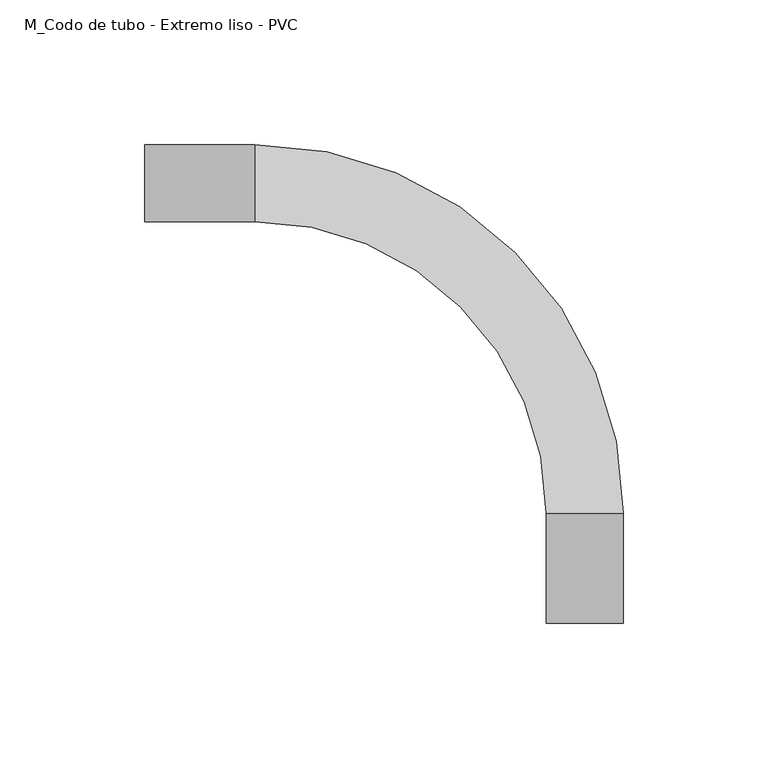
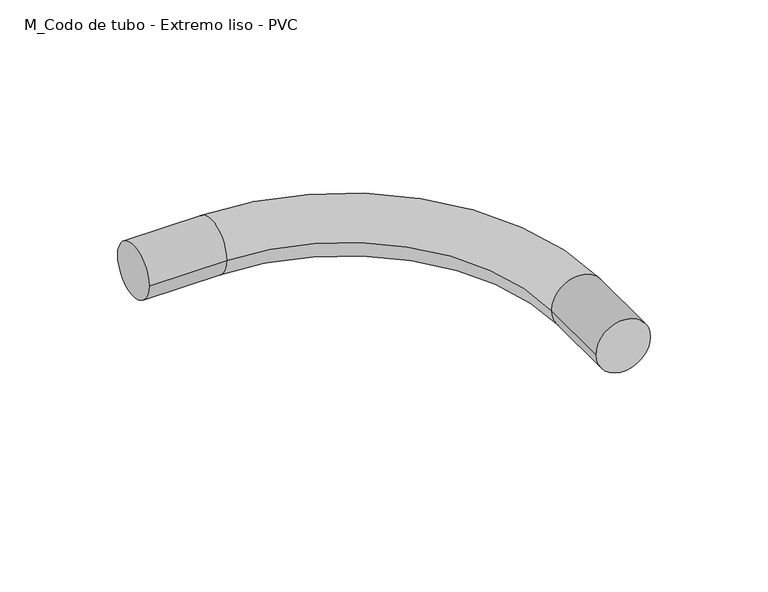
"""IFC4 building model written with IfcOpenShell, lengths in millimetres: cable carrier fitting geometry, M_Codo de tubo - Extremo liso - PVC : CODO ILUMINACION."""

import ifcopenshell
import ifcopenshell.guid

model = None  # the IFC model being written
_history = None  # IfcOwnerHistory: only IFC2X3 demands one
_inside = {}  # id of a spatial element -> (the spatial element, [elements in it])
_under = {}  # id of a project, library or spatial element -> (it, [spatial elements below it])
_declared = {}  # id of a project -> (the project, [libraries it declares])
_typed = {}  # id of a type object -> (the type object, [elements of that type])
_made_of = {}  # id of a material, layer set ... -> (it, [elements and type objects made of it])


def new_model(schema):
    """Start an empty IFC model of exactly this schema.

    Asked for "IFC4X3", IfcOpenShell would pick the latest addendum, in which some entities
    have other attributes; the version numbers below select the first issue.
    IFC2X3 requires an IfcOwnerHistory on every rooted entity: one is made here for all.
    """
    global model, _history
    if schema == "IFC4X3":
        model = ifcopenshell.file(schema_version=(4, 3, 0, 0))
    else:
        model = ifcopenshell.file(schema=schema)
    _inside.clear()
    _under.clear()
    _declared.clear()
    _typed.clear()
    _made_of.clear()
    _history = None
    if model.schema == "IFC2X3":
        org = make("IfcOrganization", Name="unknown")
        user = make(
            "IfcPersonAndOrganization",
            ThePerson=make("IfcPerson", FamilyName="unknown"),
            TheOrganization=org,
        )
        app = make(
            "IfcApplication",
            ApplicationDeveloper=org,
            Version="unknown",
            ApplicationFullName="unknown",
            ApplicationIdentifier="unknown",
        )
        _history = make(
            "IfcOwnerHistory",
            OwningUser=user,
            OwningApplication=app,
            ChangeAction="ADDED",
            CreationDate=0,
        )
    return model


def make(cls, **values):
    """One entity of the class cls with the attributes given. An attribute that is None is left unset."""
    return model.create_entity(
        cls, **{name: value for name, value in values.items() if value is not None}
    )


def rooted(cls, **values):
    """An entity with a GlobalId (a new one), such as an element, a storey or a relation."""
    return make(cls, GlobalId=ifcopenshell.guid.new(), OwnerHistory=_history, **values)


def si_unit(unit_type, name, prefix=None):
    """IfcSIUnit, for example si_unit("LENGTHUNIT", "METRE", prefix="MILLI")."""
    return make("IfcSIUnit", UnitType=unit_type, Prefix=prefix, Name=name)


def assignment(units):
    """IfcUnitAssignment: the units of a project."""
    return None if units is None else make("IfcUnitAssignment", Units=units)


def point(xyz):
    """IfcCartesianPoint."""
    return None if xyz is None else make("IfcCartesianPoint", Coordinates=xyz)


def direction(xyz):
    """IfcDirection."""
    return None if xyz is None else make("IfcDirection", DirectionRatios=xyz)


def frame(location, z_axis=None, x_axis=None):
    """IfcAxis2Placement3D, a coordinate frame: its origin and axes. An axis left out is left unset."""
    return make(
        "IfcAxis2Placement3D",
        Location=point(location),
        Axis=direction(z_axis),
        RefDirection=direction(x_axis),
    )


def origin():
    """The frame at (0, 0, 0) with its axes left unset."""
    return frame((0.0, 0.0, 0.0))


def place(relative_to, where):
    """IfcLocalPlacement: puts the frame where relative to a parent placement (None: the world)."""
    return make(
        "IfcLocalPlacement", PlacementRelTo=relative_to, RelativePlacement=where
    )


def context(
    kind, dimensions, precision=None, world=None, true_north=None, identifier=None
):
    """IfcGeometricRepresentationContext, for example the 3D "Model" context."""
    return make(
        "IfcGeometricRepresentationContext",
        ContextIdentifier=identifier,
        ContextType=kind,
        CoordinateSpaceDimension=dimensions,
        Precision=precision,
        WorldCoordinateSystem=world,
        TrueNorth=true_north,
    )


def project(units=None, contexts=None):
    """IfcProject with its units and contexts."""
    return rooted(
        "IfcProject",
        Name="project",
        RepresentationContexts=contexts,
        UnitsInContext=assignment(units),
    )


def spatial(cls, under=None, at=None, **own):
    """A site, building, storey or space (cls), placed at a placement, below another one or the project."""
    s = rooted(cls, ObjectPlacement=at, **own)
    if under is not None:
        _under.setdefault(under.id(), (under, []))[1].append(s)
    return s


def circle_curve(where, radius):
    """IfcCircle in the frame where."""
    return make("IfcCircle", Position=where, Radius=radius)


def ellipse_curve(where, semi_axis1, semi_axis2):
    """IfcEllipse in the frame where."""
    return make(
        "IfcEllipse", Position=where, SemiAxis1=semi_axis1, SemiAxis2=semi_axis2
    )


def trimmed(basis, trim1, trim2, sense, master):
    """IfcTrimmedCurve: the piece of a basis curve between two trims."""
    return make(
        "IfcTrimmedCurve",
        BasisCurve=basis,
        Trim1=trim1,
        Trim2=trim2,
        SenseAgreement=sense,
        MasterRepresentation=master,
    )


def shape(context_of_items, identifier, shape_type, items):
    """IfcShapeRepresentation: the items that make up one representation, for example the "Body"."""
    return make(
        "IfcShapeRepresentation",
        ContextOfItems=context_of_items,
        RepresentationIdentifier=identifier,
        RepresentationType=shape_type,
        Items=items,
    )


def source(mapping_origin, context_of_items, identifier, shape_type, items):
    """IfcRepresentationMap: a shape defined once, which mapped items show again and again."""
    return make(
        "IfcRepresentationMap",
        MappingOrigin=mapping_origin,
        MappedRepresentation=shape(context_of_items, identifier, shape_type, items),
    )


def transform(
    local_origin,
    x_axis=None,
    y_axis=None,
    z_axis=None,
    scale=None,
    scale2=None,
    scale3=None,
    uniform=True,
):
    """IfcCartesianTransformationOperator3D, or its non-uniform kind. x_axis, y_axis, z_axis: its Axis1, 2, 3."""
    if uniform:
        return make(
            "IfcCartesianTransformationOperator3D",
            Axis1=direction(x_axis),
            Axis2=direction(y_axis),
            LocalOrigin=point(local_origin),
            Scale=scale,
            Axis3=direction(z_axis),
        )
    return make(
        "IfcCartesianTransformationOperator3DnonUniform",
        Axis1=direction(x_axis),
        Axis2=direction(y_axis),
        LocalOrigin=point(local_origin),
        Scale=scale,
        Axis3=direction(z_axis),
        Scale2=scale2,
        Scale3=scale3,
    )


def mapped(mapping_source, mapping_target):
    """IfcMappedItem: shows the shape of a source again, moved by a transform."""
    return make(
        "IfcMappedItem", MappingSource=mapping_source, MappingTarget=mapping_target
    )


def made_of(thing, what):
    """Note that an element or type object is made of a material, layer set ...; save() writes the relation."""
    if what is not None:
        _made_of.setdefault(what.id(), (what, []))[1].append(thing)
    return thing


def element(
    cls,
    number,
    at=None,
    inside=None,
    cuts=None,
    type_object=None,
    material=None,
    context=None,
    identifier="Body",
    shape_type=None,
    held_by="IfcProductDefinitionShape",
    body=None,
    shapes=None,
    **own,
):
    """One element of the class cls, such as IfcWall. Its Tag is "e" and its number.

    at: its placement. inside: the storey or other place that contains it. cuts: it is an
    opening in that element (IfcRelVoidsElement). A single representation is given by context,
    identifier, shape_type and body (its items); several are given by shapes. held_by: the class
    of the entity that holds the representations. save() writes the other relations.
    """
    e = rooted(cls, Tag="e%d" % number, ObjectPlacement=at, **own)
    if body is not None:
        shapes = [shape(context, identifier, shape_type, body)]
    if shapes is not None:
        e.Representation = make(held_by, Representations=shapes)
    if inside is not None:
        _inside.setdefault(inside.id(), (inside, []))[1].append(e)
    if cuts is not None:
        rooted(
            "IfcRelVoidsElement", RelatingBuildingElement=cuts, RelatedOpeningElement=e
        )
    if type_object is not None:
        _typed.setdefault(type_object.id(), (type_object, []))[1].append(e)
    return made_of(e, material)


def aggregate(whole, parts):
    """IfcRelAggregates: a whole, such as a stair, and the parts it consists of."""
    return rooted("IfcRelAggregates", RelatingObject=whole, RelatedObjects=parts)


def save(model, path):
    """Write the relations noted so far, then the file.

    IfcRelAggregates (storeys below a building ...), IfcRelContainedInSpatialStructure (elements
    in a storey), IfcRelDefinesByType, IfcRelAssociatesMaterial and IfcRelDeclares: one each for
    every whole, place, type object, material and project.
    """
    for whole, parts in _under.values():
        aggregate(whole, parts)
    for where, things in _inside.values():
        rooted(
            "IfcRelContainedInSpatialStructure",
            RelatedElements=things,
            RelatingStructure=where,
        )
    for kind, things in _typed.values():
        rooted("IfcRelDefinesByType", RelatedObjects=things, RelatingType=kind)
    for what, things in _made_of.values():
        rooted("IfcRelAssociatesMaterial", RelatedObjects=things, RelatingMaterial=what)
    for by, libraries in _declared.values():
        rooted("IfcRelDeclares", RelatingContext=by, RelatedDefinitions=libraries)
    model.write(path)


def plane_surface(at):
    """IfcPlane: the flat surface through the origin of the frame at, square to its z axis."""
    return make("IfcPlane", Position=at)


def cylinder_surface(at, radius):
    """IfcCylindricalSurface: all points at the distance radius from the z axis of the frame at."""
    return make("IfcCylindricalSurface", Position=at, Radius=radius)


def revolved_surface(curve, axis_point, axis_direction):
    """IfcSurfaceOfRevolution: the curve turned about the line through axis_point along axis_direction."""
    return make(
        "IfcSurfaceOfRevolution",
        SweptCurve=make("IfcArbitraryOpenProfileDef", ProfileType="CURVE", Curve=curve),
        AxisPosition=make("IfcAxis1Placement", Location=point(axis_point), Axis=direction(axis_direction)),
    )


def advanced_brep(points, edges, surfaces, faces):
    """IfcAdvancedBrep: a solid bounded by faces that lie on surfaces and meet in shared edges.

    An edge is (start, end): straight between two places in points (the first is 0);
    or (start, end, curve); or (start, end, curve, False) where it runs against its curve.
    A face is (place in surfaces, loops), or (place, loops, False) where it looks against
    its surface's normal. A loop lists edges by number (the first is 1), with a minus sign
    where the edge is run from its end to its start. The first loop is the outer one.
    """
    corners = [point(p) for p in points]
    vertices = [make("IfcVertexPoint", VertexGeometry=c) for c in corners]
    made = []
    for start, end, *more in edges:
        made.append(
            make(
                "IfcEdgeCurve",
                EdgeStart=vertices[start],
                EdgeEnd=vertices[end],
                EdgeGeometry=more[0] if more else make("IfcPolyline", Points=[corners[start], corners[end]]),
                SameSense=more[1] if len(more) > 1 else True,
            )
        )
    hull = []
    for where, loops, *sense in faces:
        bounds = []
        for j, loop in enumerate(loops):
            ring = [make("IfcOrientedEdge", EdgeElement=made[abs(k) - 1], Orientation=k > 0) for k in loop]
            bounds.append(
                make(
                    "IfcFaceOuterBound" if j == 0 else "IfcFaceBound",
                    Bound=make("IfcEdgeLoop", EdgeList=ring),
                    Orientation=True,
                )
            )
        hull.append(make("IfcAdvancedFace", Bounds=bounds, FaceSurface=surfaces[where], SameSense=sense[0] if sense else True))
    return make("IfcAdvancedBrep", Outer=make("IfcClosedShell", CfsFaces=hull))


def m_codo_de_tubo_extremo_liso_pvc_102f0f41(model_context):
    return source(origin(), model_context, "Body", "AdvancedBrep", [
        advanced_brep(
        [(-152.4, 13.335, 0.0), (-152.4, -13.335, 0.0), (-114.3, -13.335, 0.0), (-114.3, 13.335, 0.0), (-13.335, -114.3, 0.0), (13.335, -114.3, 0.0), (13.335, -152.4, 0.0), (-13.335, -152.4, 0.0)],
        [
            (0, 1, circle_curve(frame((-152.4, 0.0, 0.0), z_axis=(-1.0, 0.0, 0.0), x_axis=(0.0, -1.0, 0.0)), 13.335)),
            (1, 0, circle_curve(frame((-152.4, 0.0, 0.0), z_axis=(-1.0, 0.0, 0.0), x_axis=(0.0, -1.0, 0.0)), 13.335)),
            (1, 2),
            (2, 3, circle_curve(frame((-114.3, 0.0, 0.0), z_axis=(-1.0, 0.0, 0.0), x_axis=(0.0, -1.0, 0.0)), 13.335)),
            (3, 0),
            (3, 2, circle_curve(frame((-114.3, 0.0, 0.0), z_axis=(-1.0, 0.0, 0.0), x_axis=(0.0, -1.0, 0.0)), 13.335)),
            (4, 5, circle_curve(frame((0.0, -114.3, 0.0), z_axis=(0.0, 1.0, 0.0), x_axis=(-1.0, 0.0, 0.0)), 13.335)),
            (5, 3, circle_curve(frame((-114.3, -114.3, 0.0), z_axis=(0.0, 0.0, 1.0), x_axis=(0.0, 1.0, 0.0)), 127.635)),
            (2, 4, circle_curve(frame((-114.3, -114.3, 0.0), z_axis=(0.0, 0.0, -1.0), x_axis=(0.0, 1.0, 0.0)), 100.965)),
            (5, 4, circle_curve(frame((0.0, -114.3, 0.0), z_axis=(0.0, 1.0, 0.0), x_axis=(-1.0, 0.0, 0.0)), 13.335)),
            (6, 7, circle_curve(frame((0.0, -152.4, 0.0), z_axis=(0.0, -1.0, 0.0), x_axis=(-1.0, 0.0, 0.0)), 13.335)),
            (7, 6, circle_curve(frame((0.0, -152.4, 0.0), z_axis=(0.0, -1.0, 0.0), x_axis=(-1.0, 0.0, 0.0)), 13.335)),
            (4, 7),
            (6, 5),
        ],
        [
            plane_surface(frame((-152.4, 0.0, 0.0), z_axis=(-1.0, 0.0, 0.0), x_axis=(0.0, 0.0, 1.0))),
            cylinder_surface(frame((-152.4, 0.0, 0.0), z_axis=(-1.0, 0.0, 0.0), x_axis=(0.0, -1.0, 0.0)), 13.335),
            revolved_surface(trimmed(ellipse_curve(frame((-114.3, 0.0, 0.0), z_axis=(1.0, 0.0, 0.0), x_axis=(0.0, -1.0, 0.0)), 13.335, 13.335), [point((-114.3, 13.335, 0.0))], [point((-114.3, -13.335, 0.0))], True, "CARTESIAN"), (-114.3, -114.3, 0.0), (0.0, 0.0, 1.0)),
            revolved_surface(trimmed(ellipse_curve(frame((-114.3, 0.0, 0.0), z_axis=(1.0, 0.0, 0.0), x_axis=(0.0, -1.0, 0.0)), 13.335, 13.335), [point((-114.3, -13.335, 0.0))], [point((-114.3, 13.335, 0.0))], True, "CARTESIAN"), (-114.3, -114.3, 0.0), (0.0, 0.0, 1.0)),
            plane_surface(frame((0.0, -152.4, 0.0), z_axis=(0.0, -1.0, 0.0), x_axis=(0.0, 0.0, 1.0))),
            cylinder_surface(frame((0.0, -114.3, 0.0), z_axis=(0.0, 1.0, 0.0), x_axis=(-1.0, 0.0, 0.0)), 13.335),
        ],
        [
            (0, [[1, 2]]),
            (1, [[3, 4, 5, -2]]),
            (1, [[-5, 6, -3, -1]]),
            (2, [[7, 8, -4, 9]]),
            (3, [[10, -9, -6, -8]]),
            (4, [[11, 12]]),
            (5, [[13, -11, 14, -7]]),
            (5, [[-14, -12, -13, -10]]),
        ],
    ),
    ])


if __name__ == "__main__":
    model = new_model("IFC4")
    model_context = context("Model", 3, world=origin())
    ifc_project = project(units=[si_unit("LENGTHUNIT", "METRE", prefix="MILLI")], contexts=[model_context])
    site = spatial("IfcSite", under=ifc_project)
    building = spatial("IfcBuilding", under=site)
    placement = place(None, origin())
    m_codo_de_tubo_extremo_liso_pvc_shape = m_codo_de_tubo_extremo_liso_pvc_102f0f41(model_context)
    element("IfcCableCarrierFitting", 1, ObjectType="M_Codo de tubo - Extremo liso - PVC : CODO ILUMINACION", at=placement, inside=building, context=model_context, shape_type="MappedRepresentation", body=[
        mapped(m_codo_de_tubo_extremo_liso_pvc_shape, transform((0.0, 0.0, 0.0), x_axis=(1.0, 0.0, 0.0), y_axis=(0.0, 1.0, 0.0), z_axis=(0.0, 0.0, 1.0))),
    ])
    save(model, "model.ifc")
